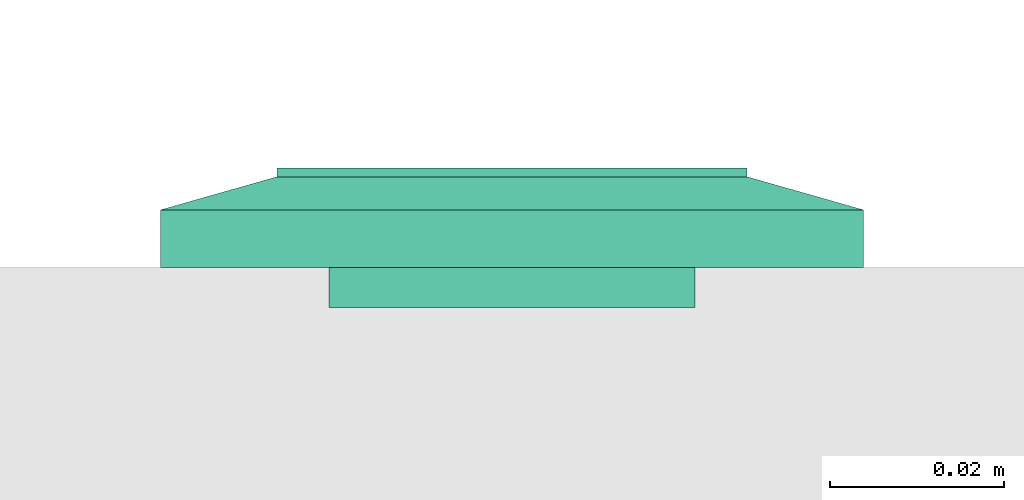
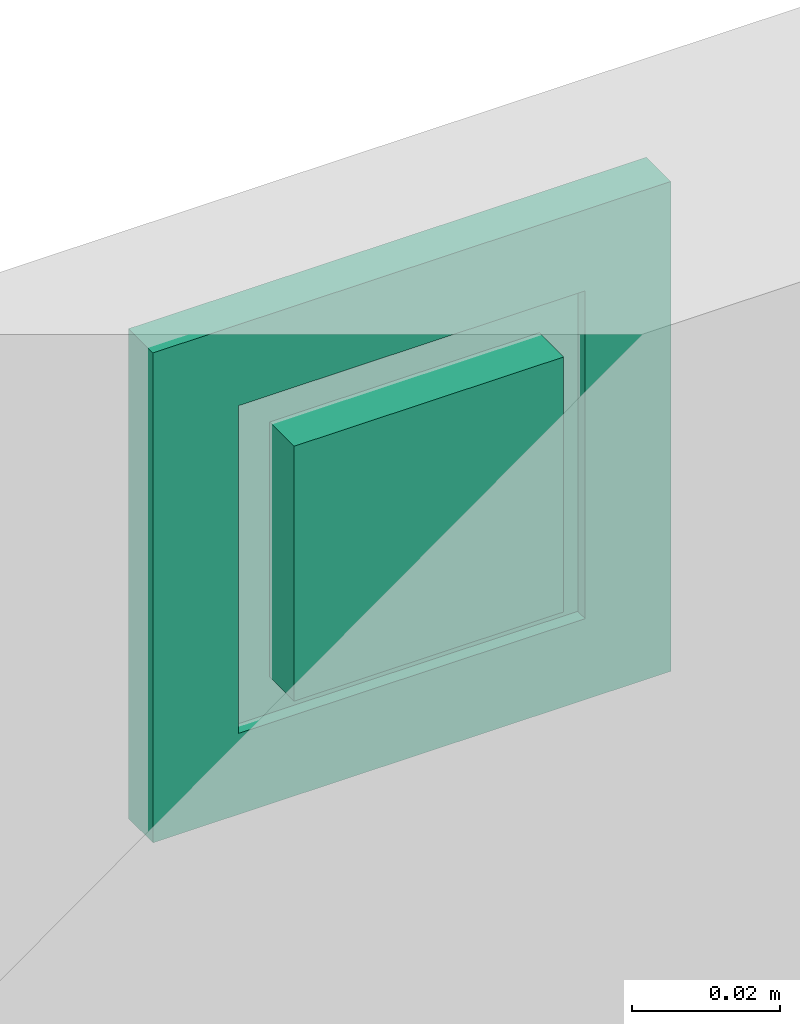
# One storey, part 76 of 166: 1 flow terminal.
"""IFC2X3 building model written with IfcOpenShell, lengths in metres."""

from ifc_helpers import new_model, entity, si_unit, converted_unit, derived_unit, direction, frame, origin, place, context, subcontext, project, spatial, faceted_brep, source, transform, mapped, type_object, type_shapes, element, save


model = new_model("IFC2X3")

# Units and contexts
model_context = context("Model", 3, precision=1e-05, world=origin(), true_north=direction((6.12303176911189e-17, 1.0)))
body_context = subcontext(model_context, "Body", "Model", "MODEL_VIEW")
ifc_project = project(units=[si_unit("LENGTHUNIT", "METRE"), si_unit("AREAUNIT", "SQUARE_METRE"), si_unit("VOLUMEUNIT", "CUBIC_METRE"), converted_unit("PLANEANGLEUNIT", "DEGREE", entity("IfcRatioMeasure", 0.0174532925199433), si_unit("PLANEANGLEUNIT", "RADIAN"), dimensions=[0, 0, 0, 0, 0, 0, 0]), si_unit("MASSUNIT", "GRAM", prefix="KILO"), derived_unit("MASSDENSITYUNIT", [(si_unit("MASSUNIT", "GRAM", prefix="KILO"), 1), (si_unit("LENGTHUNIT", "METRE"), -3)]), si_unit("TIMEUNIT", "SECOND"), si_unit("FREQUENCYUNIT", "HERTZ"), si_unit("THERMODYNAMICTEMPERATUREUNIT", "DEGREE_CELSIUS"), derived_unit("THERMALTRANSMITTANCEUNIT", [(si_unit("MASSUNIT", "GRAM", prefix="KILO"), 1), (si_unit("THERMODYNAMICTEMPERATUREUNIT", "KELVIN"), -1), (si_unit("TIMEUNIT", "SECOND"), -3)]), derived_unit("VOLUMETRICFLOWRATEUNIT", [(si_unit("LENGTHUNIT", "METRE"), 3), (si_unit("TIMEUNIT", "SECOND"), -1)]), si_unit("ELECTRICCURRENTUNIT", "AMPERE"), si_unit("ELECTRICVOLTAGEUNIT", "VOLT"), si_unit("POWERUNIT", "WATT"), si_unit("FORCEUNIT", "NEWTON"), si_unit("ILLUMINANCEUNIT", "LUX"), si_unit("LUMINOUSFLUXUNIT", "LUMEN"), si_unit("LUMINOUSINTENSITYUNIT", "CANDELA"), derived_unit("USERDEFINED", [(si_unit("MASSUNIT", "GRAM", prefix="KILO"), -1), (si_unit("LENGTHUNIT", "METRE"), -2), (si_unit("TIMEUNIT", "SECOND"), 3), (si_unit("LUMINOUSFLUXUNIT", "LUMEN"), 1)]), derived_unit("LINEARVELOCITYUNIT", [(si_unit("LENGTHUNIT", "METRE"), 1), (si_unit("TIMEUNIT", "SECOND"), -1)]), si_unit("PRESSUREUNIT", "PASCAL"), derived_unit("USERDEFINED", [(si_unit("LENGTHUNIT", "METRE"), -2), (si_unit("MASSUNIT", "GRAM", prefix="KILO"), 1), (si_unit("TIMEUNIT", "SECOND"), -2)])], contexts=[model_context])

# Site, building, storey
site_placement = place(None, origin())
site = spatial("IfcSite", under=ifc_project, at=site_placement, Name="Default", CompositionType="ELEMENT")
building_placement = place(site_placement, origin())
building = spatial("IfcBuilding", under=site, at=building_placement, CompositionType="ELEMENT")
storey_placement = place(building_placement, frame((0.0, 0.0, 4.27)))
storey = spatial("IfcBuildingStorey", under=building, at=storey_placement, Name="01", CompositionType="ELEMENT", Elevation=4.27)

# Flow terminal
electric_appliance_type = type_object("IfcElectricApplianceType", Name="RJ45 IP20", PredefinedType="NOTDEFINED")
shared_shape = source(origin(), body_context, "Body", "Brep", [
    faceted_brep([(0.00200000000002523, 0.0, 0.00799999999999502), (0.00400000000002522, 0.0, 0.00799999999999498), (0.00500000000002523, 0.00199999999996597, 0.00799999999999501), (0.0110000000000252, 0.00199999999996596, 0.00799999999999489), (0.0120000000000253, 0.0, 0.00799999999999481), (0.0140000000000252, 0.0, 0.00799999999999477), (0.0140000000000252, 0.00399999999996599, 0.00799999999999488), (0.00200000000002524, 0.00399999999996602, 0.00799999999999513), (0.00200000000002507, 0.0, 0.0), (0.00200000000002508, 0.00399999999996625, 0.0), (0.0140000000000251, 0.00399999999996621, 0.0), (0.0140000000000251, 0.0, 0.0), (0.0120000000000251, 0.0, 0.0), (0.0110000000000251, 0.00199999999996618, 0.0), (0.00500000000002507, 0.0019999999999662, 0.0), (0.00400000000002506, 0.0, 0.0)], [[[0, 1, 2, 3, 4, 5, 6, 7]], [[8, 9, 10, 11, 12, 13, 14, 15]], [[1, 0, 8, 15]], [[2, 1, 15, 14]], [[3, 2, 14, 13]], [[4, 3, 13, 12]], [[5, 4, 12, 11]], [[6, 5, 11, 10]], [[7, 6, 10, 9]], [[0, 7, 9, 8]]]),
    faceted_brep([(-0.0139999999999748, 0.0, 0.00799999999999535), (-0.0119999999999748, 0.0, 0.00799999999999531), (-0.0109999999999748, 0.00199999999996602, 0.00799999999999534), (-0.00499999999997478, 0.00199999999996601, 0.00799999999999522), (-0.0039999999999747, 0.0, 0.00799999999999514), (-0.00199999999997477, 0.0, 0.0079999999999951), (-0.00199999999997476, 0.00399999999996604, 0.00799999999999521), (-0.0139999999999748, 0.00399999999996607, 0.00799999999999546), (-0.0139999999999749, 0.0, 0.0), (-0.0139999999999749, 0.00399999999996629, 0.0), (-0.00199999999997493, 0.00399999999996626, 0.0), (-0.00199999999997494, 0.0, 0.0), (-0.00399999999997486, 0.0, 0.0), (-0.00499999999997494, 0.00199999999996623, 0.0), (-0.0109999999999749, 0.00199999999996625, 0.0), (-0.0119999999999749, 0.0, 0.0)], [[[0, 1, 2, 3, 4, 5, 6, 7]], [[8, 9, 10, 11, 12, 13, 14, 15]], [[1, 0, 8, 15]], [[2, 1, 15, 14]], [[3, 2, 14, 13]], [[4, 3, 13, 12]], [[5, 4, 12, 11]], [[6, 5, 11, 10]], [[7, 6, 10, 9]], [[0, 7, 9, 8]]]),
    faceted_brep([(0.0140000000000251, 0.00399999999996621, 0.0), (0.00200000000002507, 0.00399999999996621, 0.0), (0.00200000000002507, -0.00350000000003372, 0.0), (0.0140000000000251, -0.00350000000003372, 0.0), (0.0140000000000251, 0.00399999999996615, 0.00199999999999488), (0.00200000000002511, 0.00399999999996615, 0.00199999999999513), (0.00200000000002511, -0.00393859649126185, 0.00199999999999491), (0.0140000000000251, -0.00393859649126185, 0.00199999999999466), (0.0210000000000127, 0.0209999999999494, 0.00199999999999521), (-0.0209999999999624, 0.0209999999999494, 0.00199999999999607), (-0.0209999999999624, -0.0210000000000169, 0.00199999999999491), (0.0210000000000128, -0.0210000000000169, 0.00199999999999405), (-0.0139999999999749, 0.0039999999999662, 0.00199999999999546), (-0.0019999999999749, 0.0039999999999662, 0.00199999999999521), (-0.00199999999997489, -0.0039385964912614, 0.00199999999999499), (-0.0139999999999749, -0.00393859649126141, 0.00199999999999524), (0.0210000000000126, 0.0209999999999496, -0.00460000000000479), (0.0210000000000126, -0.0210000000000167, -0.00460000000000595), (-0.0209999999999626, -0.0210000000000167, -0.00460000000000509), (-0.0209999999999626, 0.0209999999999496, -0.00460000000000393), (-0.00199999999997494, 0.00399999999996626, 0.0), (-0.0139999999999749, 0.00399999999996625, 0.0), (-0.0139999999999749, -0.00350000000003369, 0.0), (-0.00199999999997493, -0.00350000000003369, 0.0)], [[[0, 1, 2, 3]], [[1, 0, 4, 5]], [[2, 1, 5, 6]], [[3, 2, 6, 7]], [[0, 3, 7, 4]], [[5, 4, 7, 6], [8, 9, 10, 11], [12, 13, 14, 15]], [[16, 17, 18, 19]], [[9, 8, 16, 19]], [[10, 9, 19, 18]], [[11, 10, 18, 17]], [[8, 11, 17, 16]], [[20, 21, 22, 23]], [[21, 20, 13, 12]], [[22, 21, 12, 15]], [[23, 22, 15, 14]], [[20, 23, 14, 13]]], outer=[[True], [True], [True], [True], [True], [False, True, False], [True], [True], [True], [True], [True], [True], [True], [True], [True], [True]]),
    faceted_brep([(0.0270000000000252, 0.026999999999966, 0.0113999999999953), (-0.0269999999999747, 0.026999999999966, 0.0113999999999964), (-0.0269999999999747, -0.0270000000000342, 0.0113999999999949), (0.0270000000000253, -0.0270000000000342, 0.0113999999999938), (0.0020000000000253, 0.00399999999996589, 0.0113999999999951), (0.0140000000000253, 0.00399999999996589, 0.0113999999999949), (0.0140000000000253, -0.00600000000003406, 0.0113999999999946), (0.0020000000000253, -0.00600000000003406, 0.0113999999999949), (-0.0139999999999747, 0.00399999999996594, 0.0113999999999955), (-0.00199999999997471, 0.00399999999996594, 0.0113999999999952), (-0.00199999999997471, -0.0060000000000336, 0.0113999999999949), (-0.0139999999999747, -0.00600000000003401, 0.0113999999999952), (0.0270000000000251, 0.0269999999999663, 0.00199999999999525), (0.0270000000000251, -0.0270000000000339, 0.00199999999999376), (-0.0269999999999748, -0.0270000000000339, 0.00199999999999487), (-0.0269999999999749, 0.0269999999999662, 0.00199999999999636), (0.0140000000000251, 0.00399999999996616, 0.00199999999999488), (0.00200000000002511, 0.00399999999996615, 0.00199999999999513), (0.00200000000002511, -0.00393859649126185, 0.00199999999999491), (0.0140000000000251, -0.00393859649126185, 0.00199999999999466), (-0.00199999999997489, 0.0039999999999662, 0.00199999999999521), (-0.0139999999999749, 0.0039999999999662, 0.00199999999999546), (-0.0139999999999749, -0.0039385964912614, 0.00199999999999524), (-0.00199999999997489, -0.0039385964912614, 0.00199999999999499)], [[[0, 1, 2, 3], [4, 5, 6, 7], [8, 9, 10, 11]], [[12, 13, 14, 15], [16, 17, 18, 19], [20, 21, 22, 23]], [[1, 0, 12, 15]], [[2, 1, 15, 14]], [[3, 2, 14, 13]], [[0, 3, 13, 12]], [[4, 17, 16, 5]], [[17, 4, 7, 18]], [[18, 7, 6, 19]], [[5, 16, 19, 6]], [[8, 21, 20, 9]], [[21, 8, 11, 22]], [[22, 11, 10, 23]], [[9, 20, 23, 10]]]),
    faceted_brep([(0.027000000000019, 0.0269999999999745, 0.00659999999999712), (-0.0269999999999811, 0.0269999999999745, 0.00659999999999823), (-0.026999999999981, -0.0270000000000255, 0.00659999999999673), (0.027000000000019, -0.0270000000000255, 0.00659999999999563), (0.040350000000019, 0.0403499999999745, 0.00659999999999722), (0.040350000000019, -0.0403500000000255, 0.00659999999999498), (-0.0403499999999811, -0.0403500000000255, 0.00659999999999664), (-0.0403499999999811, 0.0403499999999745, 0.00659999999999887), (-0.026999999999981, 0.0269999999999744, 0.0103999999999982), (0.027000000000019, 0.0269999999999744, 0.0103999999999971), (-0.026999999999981, -0.0270000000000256, 0.0103999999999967), (0.027000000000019, -0.0270000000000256, 0.0103999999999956)], [[[0, 1, 2, 3], [4, 5, 6, 7]], [[4, 7, 8, 9]], [[7, 6, 10, 8]], [[6, 5, 11, 10]], [[5, 4, 9, 11]], [[0, 9, 8, 1]], [[1, 8, 10, 2]], [[2, 10, 11, 3]], [[9, 0, 3, 11]]], outer=[[False, True], [True], [True], [True], [True], [True], [True], [True], [True]]),
    faceted_brep([(0.040350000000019, 0.0403499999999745, 0.00659999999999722), (-0.0403499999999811, 0.0403499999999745, 0.00659999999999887), (-0.0403499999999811, -0.0403500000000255, 0.00659999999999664), (0.040350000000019, -0.0403500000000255, 0.00659999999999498), (-0.0269999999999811, 0.0269999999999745, 0.00659999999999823), (0.0270000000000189, 0.0269999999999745, 0.00659999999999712), (0.0270000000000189, -0.0270000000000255, 0.00659999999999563), (-0.0269999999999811, -0.0270000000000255, 0.00659999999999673), (0.0403500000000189, 0.0403499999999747, 0.0), (0.0403500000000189, -0.0403500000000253, 0.0), (-0.0403499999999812, -0.0403500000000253, 0.0), (-0.0403499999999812, 0.0403499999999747, 0.0), (0.0270000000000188, 0.0269999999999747, 0.0), (-0.0269999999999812, 0.0269999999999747, 0.0), (-0.0269999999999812, -0.0270000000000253, 0.0), (0.0270000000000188, -0.0270000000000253, 0.0)], [[[0, 1, 2, 3], [4, 5, 6, 7]], [[8, 9, 10, 11], [12, 13, 14, 15]], [[1, 0, 8, 11]], [[2, 1, 11, 10]], [[3, 2, 10, 9]], [[0, 3, 9, 8]], [[12, 5, 4, 13]], [[13, 4, 7, 14]], [[14, 7, 6, 15]], [[5, 12, 15, 6]]]),
])
type_shapes(electric_appliance_type, [shared_shape])
flow_terminal_placement = place(building_placement, frame((40.3260769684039, -187.64877847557, 4.70800000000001), z_axis=(0.0, 1.0, 0.0), x_axis=(-1.0, 0.0, 0.0)))
element("IfcFlowTerminal", 1, at=flow_terminal_placement, inside=storey, type_object=electric_appliance_type, Name="INT_Prise RJ45:RJ45 IP20", ObjectType="INT_Prise RJ45:RJ45 IP20", context=body_context, shape_type="MappedRepresentation", body=[
    mapped(shared_shape, transform((0.0, 0.0, 0.0), scale=1.0)),
])

save(model, "model.ifc")
